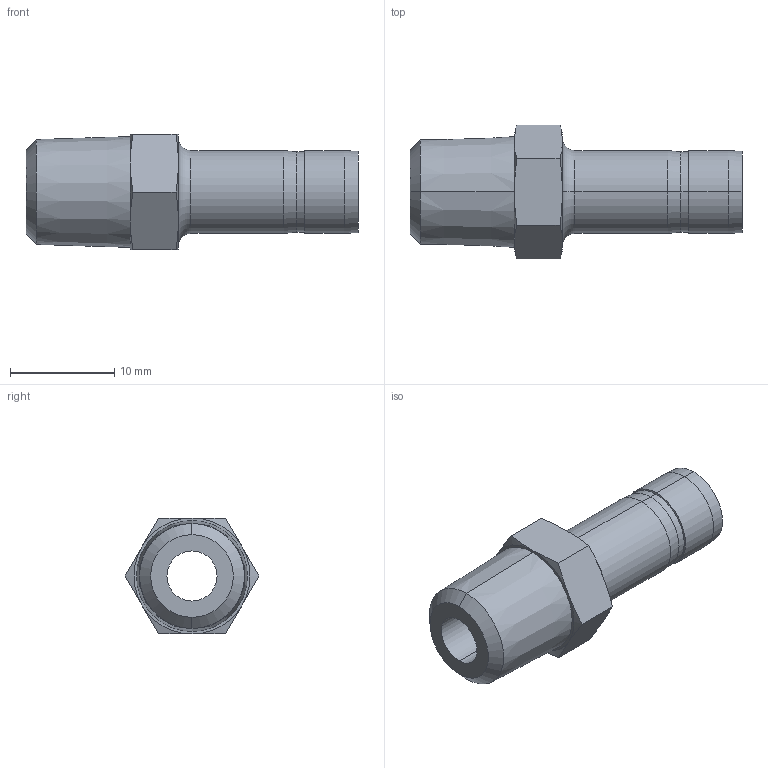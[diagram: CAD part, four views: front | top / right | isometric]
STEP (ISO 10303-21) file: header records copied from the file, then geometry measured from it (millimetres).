
FILE_DESCRIPTION (( 'STEP AP203' ), '1' );
FILE_NAME ('DHA05-02 SS.STEP', '2009-09-08T06:14:42', ( ' ' ), ( '' ), 'SwSTEP 2.0', 'SolidWorks 2008', '' );
FILE_SCHEMA (( 'CONFIG_CONTROL_DESIGN' ));
Length unit declared in the file: millimetre
Products named in the file (1): DHA05-02 SS
Bounding box: 31.8 x 12.83 x 11.11 mm (x, y, z)
Volume: 1340.2 mm3; surface area: 1622.5 mm2
Topology: 1 solids, 1 shells, 46 faces, 96 edges, 54 vertices
Faces by surface type: cone 24, cylinder 10, plane 10, torus 2
Entity records: 1317 total; most frequent: CARTESIAN_POINT 277, DIRECTION 210, ORIENTED_EDGE 192, EDGE_CURVE 96, AXIS2_PLACEMENT_3D 91, VERTEX_POINT 54, EDGE_LOOP 50, FACE_OUTER_BOUND 46
